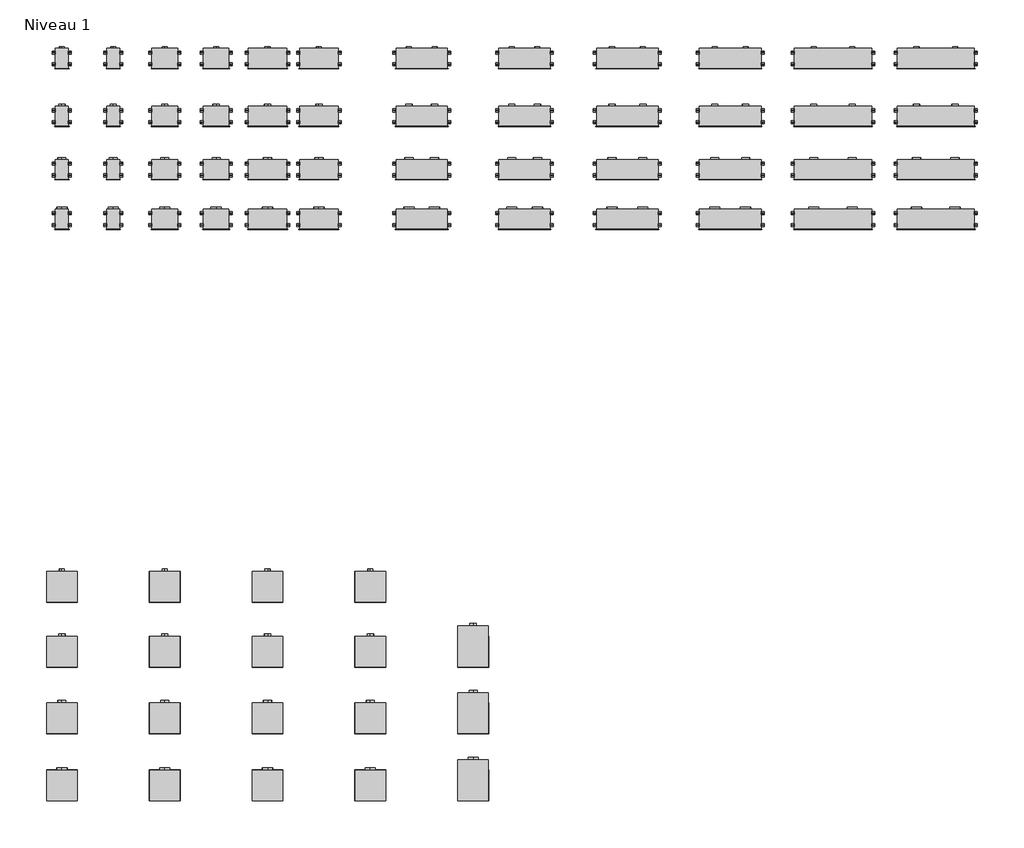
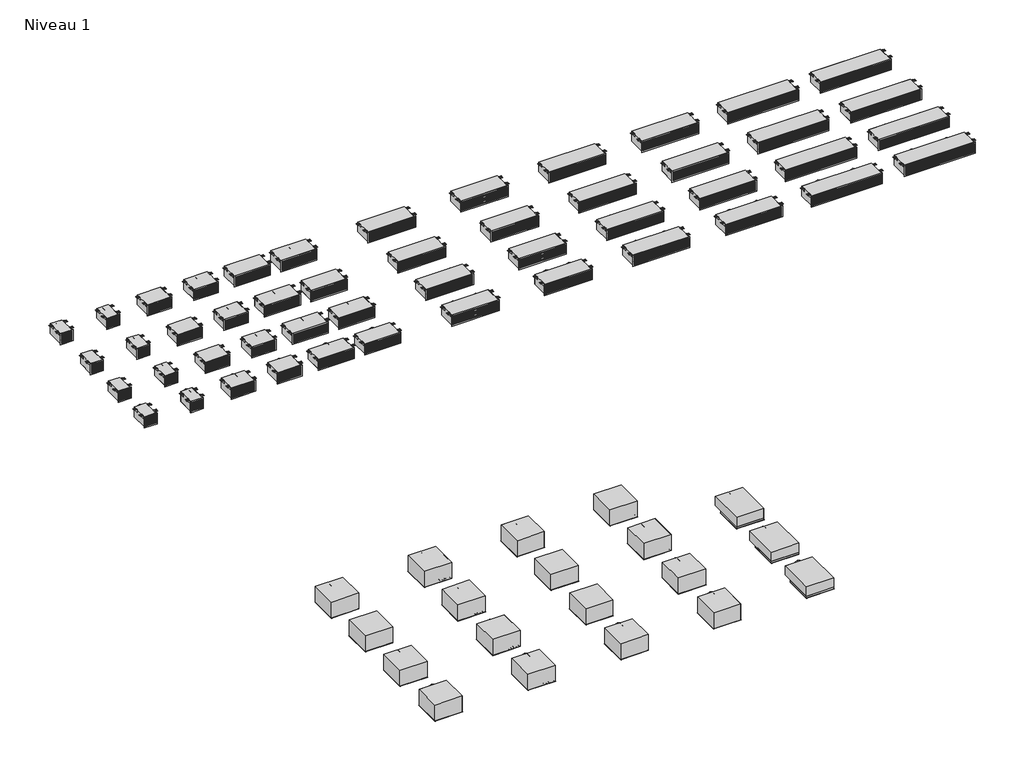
# One storey: 67 air terminals.
"""IFC4 building model written with IfcOpenShell, lengths in millimetres."""

from ifc_helpers import new_model, si_unit, origin, place, context, project, spatial, transform, mapped, element, save
from components import air_terminal_9427a1d9, air_terminal_dd134d97, air_terminal_380ac813, air_terminal_3425a1ed, air_terminal_93b68f62, air_terminal_c7b727d0, air_terminal_dbaeedca, air_terminal_643d013f, air_terminal_94710e21, air_terminal_dda5334e, air_terminal_16d54a23, air_terminal_fb6a926f, air_terminal_18f7a0d8, air_terminal_11f47abf, air_terminal_b541fa91, air_terminal_8d1e7f6b, air_terminal_0466a51b, air_terminal_1fbeafa4, air_terminal_f122593c, air_terminal_0894231d, air_terminal_c77c7e95, air_terminal_6e9eb5b7, air_terminal_af872f7b, air_terminal_8023394d, air_terminal_68dc9de8, air_terminal_87964066, air_terminal_674bfb5c, air_terminal_0c244e15, air_terminal_bc984ca1, air_terminal_e5bce460, air_terminal_6cdbe9a3, air_terminal_32119658, air_terminal_ec4d0d53, eol_mural_f0c05b58, eol_mural_10c953f2, eol_mural_340b9d11, eol_mural_228bd709, eol_mural_c0a6acfa, eol_mural_8f167833, eol_mural_bbadc28e, eol_mural_03f5ad25, eol_mural_11de79c1, eol_mural_cd177fe5, eol_mural_28d9379e, eol_mural_e3222fe8

model = new_model("IFC4")

# Units and contexts
model_context = context("Model", 3, world=origin())
ifc_project = project(units=[si_unit("LENGTHUNIT", "METRE", prefix="MILLI")], contexts=[model_context])

# Site, building, storey
site = spatial("IfcSite", under=ifc_project)
building = spatial("IfcBuilding", under=site)
storey = spatial("IfcBuildingStorey", under=building, Name="Niveau 1", Elevation=0.0)

# Air terminals
placement = place(None, origin())
air_terminal_shape = air_terminal_9427a1d9(model_context)
element("IfcAirTerminal", 1, ObjectType="EOL - Mural - 2 piquages : EOL-M2x100-1000x225-2", at=placement, inside=storey, context=model_context, shape_type="MappedRepresentation", body=[
    mapped(air_terminal_shape, transform((-2964.4977515, 376.9657034, 0.0), x_axis=(1.0, 0.0, 0.0), y_axis=(0.0, 1.0, 0.0), z_axis=(0.0, 0.0, 1.0))),
])
air_terminal_2_shape = air_terminal_dd134d97(model_context)
element("IfcAirTerminal", 2, ObjectType="EOL - Mural - 2 piquages : EOL-M2x125-1000x225-2", at=placement, inside=storey, context=model_context, shape_type="MappedRepresentation", body=[
    mapped(air_terminal_2_shape, transform((-2964.4977515, -749.3540889, 0.0), x_axis=(1.0, 0.0, 0.0), y_axis=(0.0, 1.0, 0.0), z_axis=(0.0, 0.0, 1.0))),
])
air_terminal_3_shape = air_terminal_380ac813(model_context)
element("IfcAirTerminal", 3, ObjectType="EOL - Mural - 2 piquages : EOL-M2x160-1000x225-2", at=placement, inside=storey, context=model_context, shape_type="MappedRepresentation", body=[
    mapped(air_terminal_3_shape, transform((-2964.4977515, -1784.5078015, 0.0), x_axis=(1.0, 0.0, 0.0), y_axis=(0.0, 1.0, 0.0), z_axis=(0.0, 0.0, 1.0))),
])
air_terminal_4_shape = air_terminal_3425a1ed(model_context)
element("IfcAirTerminal", 4, ObjectType="EOL - Mural - 2 piquages : EOL-M2x200-1000x225-2", at=placement, inside=storey, context=model_context, shape_type="MappedRepresentation", body=[
    mapped(air_terminal_4_shape, transform((-2964.4977515, -2751.871795, 0.0), x_axis=(1.0, 0.0, 0.0), y_axis=(0.0, 1.0, 0.0), z_axis=(0.0, 0.0, 1.0))),
])
air_terminal_5_shape = air_terminal_93b68f62(model_context)
element("IfcAirTerminal", 5, ObjectType="EOL - Mural - 2 piquages : EOL-M2x100-1200x225-2", at=placement, inside=storey, context=model_context, shape_type="MappedRepresentation", body=[
    mapped(air_terminal_5_shape, transform((1035.5022485, 376.9657034, 0.0), x_axis=(1.0, 0.0, 0.0), y_axis=(0.0, 1.0, 0.0), z_axis=(0.0, 0.0, 1.0))),
])
air_terminal_6_shape = air_terminal_c7b727d0(model_context)
element("IfcAirTerminal", 6, ObjectType="EOL - Mural - 2 piquages : EOL-M2x125-1200x225-2", at=placement, inside=storey, context=model_context, shape_type="MappedRepresentation", body=[
    mapped(air_terminal_6_shape, transform((1035.5022485, -749.3540889, 0.0), x_axis=(1.0, 0.0, 0.0), y_axis=(0.0, 1.0, 0.0), z_axis=(0.0, 0.0, 1.0))),
])
air_terminal_7_shape = air_terminal_dbaeedca(model_context)
element("IfcAirTerminal", 7, ObjectType="EOL - Mural - 2 piquages : EOL-M2x160-1200x225-2", at=placement, inside=storey, context=model_context, shape_type="MappedRepresentation", body=[
    mapped(air_terminal_7_shape, transform((1035.5022485, -1784.5078015, 0.0), x_axis=(1.0, 0.0, 0.0), y_axis=(0.0, 1.0, 0.0), z_axis=(0.0, 0.0, 1.0))),
])
air_terminal_8_shape = air_terminal_643d013f(model_context)
element("IfcAirTerminal", 8, ObjectType="EOL - Mural - 2 piquages : EOL-M2x200-1200x225-2", at=placement, inside=storey, context=model_context, shape_type="MappedRepresentation", body=[
    mapped(air_terminal_8_shape, transform((1035.5022485, -2751.871795, 0.0), x_axis=(1.0, 0.0, 0.0), y_axis=(0.0, 1.0, 0.0), z_axis=(0.0, 0.0, 1.0))),
])
air_terminal_9_shape = air_terminal_94710e21(model_context)
element("IfcAirTerminal", 9, ObjectType="EOL - Mural - 2 piquages : EOL-M2x100-1500x225-2", at=placement, inside=storey, context=model_context, shape_type="MappedRepresentation", body=[
    mapped(air_terminal_9_shape, transform((5035.5022485, 376.9657034, 0.0), x_axis=(1.0, 0.0, 0.0), y_axis=(0.0, 1.0, 0.0), z_axis=(0.0, 0.0, 1.0))),
])
air_terminal_10_shape = air_terminal_dda5334e(model_context)
element("IfcAirTerminal", 10, ObjectType="EOL - Mural - 2 piquages : EOL-M2x125-1500x225-2", at=placement, inside=storey, context=model_context, shape_type="MappedRepresentation", body=[
    mapped(air_terminal_10_shape, transform((5035.5022485, -749.3540889, 0.0), x_axis=(1.0, 0.0, 0.0), y_axis=(0.0, 1.0, 0.0), z_axis=(0.0, 0.0, 1.0))),
])
air_terminal_11_shape = air_terminal_16d54a23(model_context)
element("IfcAirTerminal", 11, ObjectType="EOL - Mural - 2 piquages : EOL-M2x160-1500x225-2", at=placement, inside=storey, context=model_context, shape_type="MappedRepresentation", body=[
    mapped(air_terminal_11_shape, transform((5035.5022485, -1784.5078015, 0.0), x_axis=(1.0, 0.0, 0.0), y_axis=(0.0, 1.0, 0.0), z_axis=(0.0, 0.0, 1.0))),
])
air_terminal_12_shape = air_terminal_fb6a926f(model_context)
element("IfcAirTerminal", 12, ObjectType="EOL - Mural - 2 piquages : EOL-M2x200-1500x225-2", at=placement, inside=storey, context=model_context, shape_type="MappedRepresentation", body=[
    mapped(air_terminal_12_shape, transform((5035.5022485, -2751.871795, 0.0), x_axis=(1.0, 0.0, 0.0), y_axis=(0.0, 1.0, 0.0), z_axis=(0.0, 0.0, 1.0))),
])
element("IfcAirTerminal", 13, ObjectType="EOL - Mural - 2 piquages : EOL-M2x100-1000x225-3", at=placement, inside=storey, context=model_context, shape_type="MappedRepresentation", body=[
    mapped(air_terminal_shape, transform((-964.4977515, 376.9657034, 0.0), x_axis=(1.0, 0.0, 0.0), y_axis=(0.0, 1.0, 0.0), z_axis=(0.0, 0.0, 1.0))),
])
element("IfcAirTerminal", 14, ObjectType="EOL - Mural - 2 piquages : EOL-M2x100-1200x225-3", at=placement, inside=storey, context=model_context, shape_type="MappedRepresentation", body=[
    mapped(air_terminal_5_shape, transform((3035.5022485, 376.9657034, 0.0), x_axis=(1.0, 0.0, 0.0), y_axis=(0.0, 1.0, 0.0), z_axis=(0.0, 0.0, 1.0))),
])
element("IfcAirTerminal", 15, ObjectType="EOL - Mural - 2 piquages : EOL-M2x100-1500x225-3", at=placement, inside=storey, context=model_context, shape_type="MappedRepresentation", body=[
    mapped(air_terminal_9_shape, transform((7035.5022485, 376.9657034, 0.0), x_axis=(1.0, 0.0, 0.0), y_axis=(0.0, 1.0, 0.0), z_axis=(0.0, 0.0, 1.0))),
])
element("IfcAirTerminal", 16, ObjectType="EOL - Mural - 2 piquages : EOL-M2x125-1000x225-3", at=placement, inside=storey, context=model_context, shape_type="MappedRepresentation", body=[
    mapped(air_terminal_2_shape, transform((-964.4977515, -749.3540889, 0.0), x_axis=(1.0, 0.0, 0.0), y_axis=(0.0, 1.0, 0.0), z_axis=(0.0, 0.0, 1.0))),
])
element("IfcAirTerminal", 17, ObjectType="EOL - Mural - 2 piquages : EOL-M2x125-1200x225-3", at=placement, inside=storey, context=model_context, shape_type="MappedRepresentation", body=[
    mapped(air_terminal_6_shape, transform((3035.5022485, -749.3540889, 0.0), x_axis=(1.0, 0.0, 0.0), y_axis=(0.0, 1.0, 0.0), z_axis=(0.0, 0.0, 1.0))),
])
element("IfcAirTerminal", 18, ObjectType="EOL - Mural - 2 piquages : EOL-M2x125-1500x225-3", at=placement, inside=storey, context=model_context, shape_type="MappedRepresentation", body=[
    mapped(air_terminal_10_shape, transform((7035.5022485, -749.3540889, 0.0), x_axis=(1.0, 0.0, 0.0), y_axis=(0.0, 1.0, 0.0), z_axis=(0.0, 0.0, 1.0))),
])
element("IfcAirTerminal", 19, ObjectType="EOL - Mural - 2 piquages : EOL-M2x160-1000x225-3", at=placement, inside=storey, context=model_context, shape_type="MappedRepresentation", body=[
    mapped(air_terminal_3_shape, transform((-964.4977515, -1784.5078015, 0.0), x_axis=(1.0, 0.0, 0.0), y_axis=(0.0, 1.0, 0.0), z_axis=(0.0, 0.0, 1.0))),
])
element("IfcAirTerminal", 20, ObjectType="EOL - Mural - 2 piquages : EOL-M2x160-1200x225-3", at=placement, inside=storey, context=model_context, shape_type="MappedRepresentation", body=[
    mapped(air_terminal_7_shape, transform((3035.5022485, -1784.5078015, 0.0), x_axis=(1.0, 0.0, 0.0), y_axis=(0.0, 1.0, 0.0), z_axis=(0.0, 0.0, 1.0))),
])
element("IfcAirTerminal", 21, ObjectType="EOL - Mural - 2 piquages : EOL-M2x160-1500x225-3", at=placement, inside=storey, context=model_context, shape_type="MappedRepresentation", body=[
    mapped(air_terminal_11_shape, transform((7035.5022485, -1784.5078015, 0.0), x_axis=(1.0, 0.0, 0.0), y_axis=(0.0, 1.0, 0.0), z_axis=(0.0, 0.0, 1.0))),
])
element("IfcAirTerminal", 22, ObjectType="EOL - Mural - 2 piquages : EOL-M2x200-1000x225-3", at=placement, inside=storey, context=model_context, shape_type="MappedRepresentation", body=[
    mapped(air_terminal_4_shape, transform((-964.4977515, -2751.871795, 0.0), x_axis=(1.0, 0.0, 0.0), y_axis=(0.0, 1.0, 0.0), z_axis=(0.0, 0.0, 1.0))),
])
element("IfcAirTerminal", 23, ObjectType="EOL - Mural - 2 piquages : EOL-M2x200-1200x225-3", at=placement, inside=storey, context=model_context, shape_type="MappedRepresentation", body=[
    mapped(air_terminal_8_shape, transform((3035.5022485, -2751.871795, 0.0), x_axis=(1.0, 0.0, 0.0), y_axis=(0.0, 1.0, 0.0), z_axis=(0.0, 0.0, 1.0))),
])
element("IfcAirTerminal", 24, ObjectType="EOL - Mural - 2 piquages : EOL-M2x200-1500x225-3", at=placement, inside=storey, context=model_context, shape_type="MappedRepresentation", body=[
    mapped(air_terminal_12_shape, transform((7035.5022485, -2751.871795, 0.0), x_axis=(1.0, 0.0, 0.0), y_axis=(0.0, 1.0, 0.0), z_axis=(0.0, 0.0, 1.0))),
])
air_terminal_13_shape = air_terminal_18f7a0d8(model_context)
element("IfcAirTerminal", 25, ObjectType="EOL - plafonnier : EOL-P2-100-600x600", at=placement, inside=storey, context=model_context, shape_type="MappedRepresentation", body=[
    mapped(air_terminal_13_shape, transform((-7964.4977515, -10004.4867421, 0.0), x_axis=(1.0, 0.0, 0.0), y_axis=(0.0, 1.0, 0.0), z_axis=(0.0, 0.0, 1.0))),
])
air_terminal_14_shape = air_terminal_11f47abf(model_context)
element("IfcAirTerminal", 26, ObjectType="EOL - plafonnier : EOL-P2-125-600x600", at=placement, inside=storey, context=model_context, shape_type="MappedRepresentation", body=[
    mapped(air_terminal_14_shape, transform((-7964.4977515, -11266.0064615, 0.0), x_axis=(1.0, 0.0, 0.0), y_axis=(0.0, 1.0, 0.0), z_axis=(0.0, 0.0, 1.0))),
])
air_terminal_15_shape = air_terminal_b541fa91(model_context)
element("IfcAirTerminal", 27, ObjectType="EOL - plafonnier : EOL-P2-160-600x600", at=placement, inside=storey, context=model_context, shape_type="MappedRepresentation", body=[
    mapped(air_terminal_15_shape, transform((-7964.4977515, -12563.0462174, 0.0), x_axis=(1.0, 0.0, 0.0), y_axis=(0.0, 1.0, 0.0), z_axis=(0.0, 0.0, 1.0))),
])
air_terminal_16_shape = air_terminal_8d1e7f6b(model_context)
element("IfcAirTerminal", 28, ObjectType="EOL - plafonnier : EOL-P2-200-600x600", at=placement, inside=storey, context=model_context, shape_type="MappedRepresentation", body=[
    mapped(air_terminal_16_shape, transform((-7964.4977515, -13872.2565118, 0.0), x_axis=(1.0, 0.0, 0.0), y_axis=(0.0, 1.0, 0.0), z_axis=(0.0, 0.0, 1.0))),
])
air_terminal_17_shape = air_terminal_0466a51b(model_context)
air_terminal_18_shape = air_terminal_1fbeafa4(model_context)
element("IfcAirTerminal", 29, ObjectType="EOL - plafonnier : EOL-P3-100-600x600", at=placement, inside=storey, context=model_context, shape_type="MappedRepresentation", body=[
    mapped(air_terminal_17_shape, transform((-5964.4977515, -10004.4867421, 0.0), x_axis=(1.0, 0.0, 0.0), y_axis=(0.0, 1.0, 0.0), z_axis=(0.0, 0.0, 1.0))),
    mapped(air_terminal_18_shape, transform((-5964.4977515, -10004.4867421, 0.0), x_axis=(1.0, 0.0, 0.0), y_axis=(0.0, 1.0, 0.0), z_axis=(0.0, 0.0, 1.0))),
])
air_terminal_19_shape = air_terminal_f122593c(model_context)
element("IfcAirTerminal", 30, ObjectType="EOL - plafonnier : EOL-P3-125-600x600", at=placement, inside=storey, context=model_context, shape_type="MappedRepresentation", body=[
    mapped(air_terminal_17_shape, transform((-5964.4977515, -11266.0064615, 0.0), x_axis=(1.0, 0.0, 0.0), y_axis=(0.0, 1.0, 0.0), z_axis=(0.0, 0.0, 1.0))),
    mapped(air_terminal_19_shape, transform((-5964.4977515, -11266.0064615, 0.0), x_axis=(1.0, 0.0, 0.0), y_axis=(0.0, 1.0, 0.0), z_axis=(0.0, 0.0, 1.0))),
])
air_terminal_20_shape = air_terminal_0894231d(model_context)
element("IfcAirTerminal", 31, ObjectType="EOL - plafonnier : EOL-P3-160-600x600", at=placement, inside=storey, context=model_context, shape_type="MappedRepresentation", body=[
    mapped(air_terminal_17_shape, transform((-5964.4977515, -12563.0462174, 0.0), x_axis=(1.0, 0.0, 0.0), y_axis=(0.0, 1.0, 0.0), z_axis=(0.0, 0.0, 1.0))),
    mapped(air_terminal_20_shape, transform((-5964.4977515, -12563.0462174, 0.0), x_axis=(1.0, 0.0, 0.0), y_axis=(0.0, 1.0, 0.0), z_axis=(0.0, 0.0, 1.0))),
])
air_terminal_21_shape = air_terminal_c77c7e95(model_context)
element("IfcAirTerminal", 32, ObjectType="EOL - plafonnier : EOL-P3-200-600x600", at=placement, inside=storey, context=model_context, shape_type="MappedRepresentation", body=[
    mapped(air_terminal_17_shape, transform((-5964.4977515, -13872.2565118, 0.0), x_axis=(1.0, 0.0, 0.0), y_axis=(0.0, 1.0, 0.0), z_axis=(0.0, 0.0, 1.0))),
    mapped(air_terminal_21_shape, transform((-5964.4977515, -13872.2565118, 0.0), x_axis=(1.0, 0.0, 0.0), y_axis=(0.0, 1.0, 0.0), z_axis=(0.0, 0.0, 1.0))),
])
air_terminal_22_shape = air_terminal_6e9eb5b7(model_context)
air_terminal_23_shape = air_terminal_af872f7b(model_context)
element("IfcAirTerminal", 33, ObjectType="EOL - plafonnier : EOL-P4-100-600x600", at=placement, inside=storey, context=model_context, shape_type="MappedRepresentation", body=[
    mapped(air_terminal_22_shape, transform((-3964.4977515, -10004.4867421, 0.0), x_axis=(1.0, 0.0, 0.0), y_axis=(0.0, 1.0, 0.0), z_axis=(0.0, 0.0, 1.0))),
    mapped(air_terminal_23_shape, transform((-3964.4977515, -10004.4867421, 0.0), x_axis=(1.0, 0.0, 0.0), y_axis=(0.0, 1.0, 0.0), z_axis=(0.0, 0.0, 1.0))),
])
air_terminal_24_shape = air_terminal_8023394d(model_context)
element("IfcAirTerminal", 34, ObjectType="EOL - plafonnier : EOL-P4-125-600x600", at=placement, inside=storey, context=model_context, shape_type="MappedRepresentation", body=[
    mapped(air_terminal_22_shape, transform((-3964.4977515, -11266.0064615, 0.0), x_axis=(1.0, 0.0, 0.0), y_axis=(0.0, 1.0, 0.0), z_axis=(0.0, 0.0, 1.0))),
    mapped(air_terminal_24_shape, transform((-3964.4977515, -11266.0064615, 0.0), x_axis=(1.0, 0.0, 0.0), y_axis=(0.0, 1.0, 0.0), z_axis=(0.0, 0.0, 1.0))),
])
air_terminal_25_shape = air_terminal_68dc9de8(model_context)
element("IfcAirTerminal", 35, ObjectType="EOL - plafonnier : EOL-P4-160-600x600", at=placement, inside=storey, context=model_context, shape_type="MappedRepresentation", body=[
    mapped(air_terminal_22_shape, transform((-3964.4977515, -12563.0462174, 0.0), x_axis=(1.0, 0.0, 0.0), y_axis=(0.0, 1.0, 0.0), z_axis=(0.0, 0.0, 1.0))),
    mapped(air_terminal_25_shape, transform((-3964.4977515, -12563.0462174, 0.0), x_axis=(1.0, 0.0, 0.0), y_axis=(0.0, 1.0, 0.0), z_axis=(0.0, 0.0, 1.0))),
])
air_terminal_26_shape = air_terminal_87964066(model_context)
element("IfcAirTerminal", 36, ObjectType="EOL - plafonnier : EOL-P4-200-600x600", at=placement, inside=storey, context=model_context, shape_type="MappedRepresentation", body=[
    mapped(air_terminal_22_shape, transform((-3964.4977515, -13872.2565118, 0.0), x_axis=(1.0, 0.0, 0.0), y_axis=(0.0, 1.0, 0.0), z_axis=(0.0, 0.0, 1.0))),
    mapped(air_terminal_26_shape, transform((-3964.4977515, -13872.2565118, 0.0), x_axis=(1.0, 0.0, 0.0), y_axis=(0.0, 1.0, 0.0), z_axis=(0.0, 0.0, 1.0))),
])
air_terminal_27_shape = air_terminal_674bfb5c(model_context)
element("IfcAirTerminal", 37, ObjectType="EOL - plafonnier : EOL-P1-100-600x600", at=placement, inside=storey, context=model_context, shape_type="MappedRepresentation", body=[
    mapped(air_terminal_27_shape, transform((-9964.4977515, -10004.4867421, 0.0), x_axis=(1.0, 0.0, 0.0), y_axis=(0.0, 1.0, 0.0), z_axis=(0.0, 0.0, 1.0))),
])
air_terminal_28_shape = air_terminal_0c244e15(model_context)
element("IfcAirTerminal", 38, ObjectType="EOL - plafonnier : EOL-P1-125-600x600", at=placement, inside=storey, context=model_context, shape_type="MappedRepresentation", body=[
    mapped(air_terminal_28_shape, transform((-9964.4977515, -11266.0064615, 0.0), x_axis=(1.0, 0.0, 0.0), y_axis=(0.0, 1.0, 0.0), z_axis=(0.0, 0.0, 1.0))),
])
air_terminal_29_shape = air_terminal_bc984ca1(model_context)
element("IfcAirTerminal", 39, ObjectType="EOL - plafonnier : EOL-P1-160-600x600", at=placement, inside=storey, context=model_context, shape_type="MappedRepresentation", body=[
    mapped(air_terminal_29_shape, transform((-9964.4977515, -12563.0462174, 0.0), x_axis=(1.0, 0.0, 0.0), y_axis=(0.0, 1.0, 0.0), z_axis=(0.0, 0.0, 1.0))),
])
air_terminal_30_shape = air_terminal_e5bce460(model_context)
element("IfcAirTerminal", 40, ObjectType="EOL - plafonnier : EOL-P1-200-600x600", at=placement, inside=storey, context=model_context, shape_type="MappedRepresentation", body=[
    mapped(air_terminal_30_shape, transform((-9964.4977515, -13872.2565118, 0.0), x_axis=(1.0, 0.0, 0.0), y_axis=(0.0, 1.0, 0.0), z_axis=(0.0, 0.0, 1.0))),
])
air_terminal_31_shape = air_terminal_6cdbe9a3(model_context)
element("IfcAirTerminal", 41, ObjectType="EOL - plafonnier - SHORT : EOL-P4-125-600x600-SHORT", at=placement, inside=storey, context=model_context, shape_type="MappedRepresentation", body=[
    mapped(air_terminal_22_shape, transform((-1964.4977515, -11266.0064615, 0.0), x_axis=(1.0, 0.0, 0.0), y_axis=(0.0, 1.0, 0.0), z_axis=(0.0, 0.0, 1.0))),
    mapped(air_terminal_31_shape, transform((-1964.4977515, -11266.0064615, 0.0), x_axis=(1.0, 0.0, 0.0), y_axis=(0.0, 1.0, 0.0), z_axis=(0.0, 0.0, 1.0))),
])
air_terminal_32_shape = air_terminal_32119658(model_context)
element("IfcAirTerminal", 42, ObjectType="EOL - plafonnier - SHORT : EOL-P4-160-600x600-SHORT", at=placement, inside=storey, context=model_context, shape_type="MappedRepresentation", body=[
    mapped(air_terminal_22_shape, transform((-1964.4977515, -12563.0462174, 0.0), x_axis=(1.0, 0.0, 0.0), y_axis=(0.0, 1.0, 0.0), z_axis=(0.0, 0.0, 1.0))),
    mapped(air_terminal_32_shape, transform((-1964.4977515, -12563.0462174, 0.0), x_axis=(1.0, 0.0, 0.0), y_axis=(0.0, 1.0, 0.0), z_axis=(0.0, 0.0, 1.0))),
])
air_terminal_33_shape = air_terminal_ec4d0d53(model_context)
element("IfcAirTerminal", 43, ObjectType="EOL - plafonnier - SHORT : EOL-P4-200-600x600-SHORT", at=placement, inside=storey, context=model_context, shape_type="MappedRepresentation", body=[
    mapped(air_terminal_22_shape, transform((-1964.4977515, -13872.2565118, 0.0), x_axis=(1.0, 0.0, 0.0), y_axis=(0.0, 1.0, 0.0), z_axis=(0.0, 0.0, 1.0))),
    mapped(air_terminal_33_shape, transform((-1964.4977515, -13872.2565118, 0.0), x_axis=(1.0, 0.0, 0.0), y_axis=(0.0, 1.0, 0.0), z_axis=(0.0, 0.0, 1.0))),
])
eol_mural_shape = eol_mural_f0c05b58(model_context)
element("IfcAirTerminal", 44, ObjectType="EOL - Mural : EOL-M100-250x225-2", at=placement, inside=storey, context=model_context, shape_type="MappedRepresentation", body=[
    mapped(eol_mural_shape, transform((-9964.4977515, 376.9657034, 0.0), x_axis=(1.0, 0.0, 0.0), y_axis=(0.0, 1.0, 0.0), z_axis=(0.0, 0.0, 1.0))),
])
eol_mural_2_shape = eol_mural_10c953f2(model_context)
element("IfcAirTerminal", 45, ObjectType="EOL - Mural : EOL-M125-250x225-2", at=placement, inside=storey, context=model_context, shape_type="MappedRepresentation", body=[
    mapped(eol_mural_2_shape, transform((-9964.4977515, -749.3540889, 0.0), x_axis=(1.0, 0.0, 0.0), y_axis=(0.0, 1.0, 0.0), z_axis=(0.0, 0.0, 1.0))),
])
eol_mural_3_shape = eol_mural_340b9d11(model_context)
element("IfcAirTerminal", 46, ObjectType="EOL - Mural : EOL-M160-250x225-2", at=placement, inside=storey, context=model_context, shape_type="MappedRepresentation", body=[
    mapped(eol_mural_3_shape, transform((-9964.4977515, -1784.5078015, 0.0), x_axis=(1.0, 0.0, 0.0), y_axis=(0.0, 1.0, 0.0), z_axis=(0.0, 0.0, 1.0))),
])
eol_mural_4_shape = eol_mural_228bd709(model_context)
element("IfcAirTerminal", 47, ObjectType="EOL - Mural : EOL-M200-250x225-2", at=placement, inside=storey, context=model_context, shape_type="MappedRepresentation", body=[
    mapped(eol_mural_4_shape, transform((-9964.4977515, -2751.871795, 0.0), x_axis=(1.0, 0.0, 0.0), y_axis=(0.0, 1.0, 0.0), z_axis=(0.0, 0.0, 1.0))),
])
eol_mural_5_shape = eol_mural_c0a6acfa(model_context)
element("IfcAirTerminal", 48, ObjectType="EOL - Mural : EOL-M100-500x225-2", at=placement, inside=storey, context=model_context, shape_type="MappedRepresentation", body=[
    mapped(eol_mural_5_shape, transform((-7964.4977515, 376.9657034, 0.0), x_axis=(1.0, 0.0, 0.0), y_axis=(0.0, 1.0, 0.0), z_axis=(0.0, 0.0, 1.0))),
])
eol_mural_6_shape = eol_mural_8f167833(model_context)
element("IfcAirTerminal", 49, ObjectType="EOL - Mural : EOL-M125-500x225-2", at=placement, inside=storey, context=model_context, shape_type="MappedRepresentation", body=[
    mapped(eol_mural_6_shape, transform((-7964.4977515, -749.3540889, 0.0), x_axis=(1.0, 0.0, 0.0), y_axis=(0.0, 1.0, 0.0), z_axis=(0.0, 0.0, 1.0))),
])
eol_mural_7_shape = eol_mural_bbadc28e(model_context)
element("IfcAirTerminal", 50, ObjectType="EOL - Mural : EOL-M160-500x225-2", at=placement, inside=storey, context=model_context, shape_type="MappedRepresentation", body=[
    mapped(eol_mural_7_shape, transform((-7964.4977515, -1784.5078015, 0.0), x_axis=(1.0, 0.0, 0.0), y_axis=(0.0, 1.0, 0.0), z_axis=(0.0, 0.0, 1.0))),
])
eol_mural_8_shape = eol_mural_03f5ad25(model_context)
element("IfcAirTerminal", 51, ObjectType="EOL - Mural : EOL-M200-500x225-2", at=placement, inside=storey, context=model_context, shape_type="MappedRepresentation", body=[
    mapped(eol_mural_8_shape, transform((-7964.4977515, -2751.871795, 0.0), x_axis=(1.0, 0.0, 0.0), y_axis=(0.0, 1.0, 0.0), z_axis=(0.0, 0.0, 1.0))),
])
eol_mural_9_shape = eol_mural_11de79c1(model_context)
element("IfcAirTerminal", 52, ObjectType="EOL - Mural : EOL-M100-750x225-2", at=placement, inside=storey, context=model_context, shape_type="MappedRepresentation", body=[
    mapped(eol_mural_9_shape, transform((-5964.4977515, 376.9657034, 0.0), x_axis=(1.0, 0.0, 0.0), y_axis=(0.0, 1.0, 0.0), z_axis=(0.0, 0.0, 1.0))),
])
eol_mural_10_shape = eol_mural_cd177fe5(model_context)
element("IfcAirTerminal", 53, ObjectType="EOL - Mural : EOL-M125-750x225-2", at=placement, inside=storey, context=model_context, shape_type="MappedRepresentation", body=[
    mapped(eol_mural_10_shape, transform((-5964.4977515, -749.3540889, 0.0), x_axis=(1.0, 0.0, 0.0), y_axis=(0.0, 1.0, 0.0), z_axis=(0.0, 0.0, 1.0))),
])
eol_mural_11_shape = eol_mural_28d9379e(model_context)
element("IfcAirTerminal", 54, ObjectType="EOL - Mural : EOL-M160-750x225-2", at=placement, inside=storey, context=model_context, shape_type="MappedRepresentation", body=[
    mapped(eol_mural_11_shape, transform((-5964.4977515, -1784.5078015, 0.0), x_axis=(1.0, 0.0, 0.0), y_axis=(0.0, 1.0, 0.0), z_axis=(0.0, 0.0, 1.0))),
])
eol_mural_12_shape = eol_mural_e3222fe8(model_context)
element("IfcAirTerminal", 55, ObjectType="EOL - Mural : EOL-M200-750x225-2", at=placement, inside=storey, context=model_context, shape_type="MappedRepresentation", body=[
    mapped(eol_mural_12_shape, transform((-5964.4977515, -2751.871795, 0.0), x_axis=(1.0, 0.0, 0.0), y_axis=(0.0, 1.0, 0.0), z_axis=(0.0, 0.0, 1.0))),
])
element("IfcAirTerminal", 56, ObjectType="EOL - Mural : EOL-M100-250x225-3", at=placement, inside=storey, context=model_context, shape_type="MappedRepresentation", body=[
    mapped(eol_mural_shape, transform((-8964.4977515, 376.9657034, 0.0), x_axis=(1.0, 0.0, 0.0), y_axis=(0.0, 1.0, 0.0), z_axis=(0.0, 0.0, 1.0))),
])
element("IfcAirTerminal", 57, ObjectType="EOL - Mural : EOL-M125-250x225-3", at=placement, inside=storey, context=model_context, shape_type="MappedRepresentation", body=[
    mapped(eol_mural_2_shape, transform((-8964.4977515, -749.3540889, 0.0), x_axis=(1.0, 0.0, 0.0), y_axis=(0.0, 1.0, 0.0), z_axis=(0.0, 0.0, 1.0))),
])
element("IfcAirTerminal", 58, ObjectType="EOL - Mural : EOL-M160-250x225-3", at=placement, inside=storey, context=model_context, shape_type="MappedRepresentation", body=[
    mapped(eol_mural_3_shape, transform((-8964.4977515, -1784.5078015, 0.0), x_axis=(1.0, 0.0, 0.0), y_axis=(0.0, 1.0, 0.0), z_axis=(0.0, 0.0, 1.0))),
])
element("IfcAirTerminal", 59, ObjectType="EOL - Mural : EOL-M200-250x225-3", at=placement, inside=storey, context=model_context, shape_type="MappedRepresentation", body=[
    mapped(eol_mural_4_shape, transform((-8964.4977515, -2751.871795, 0.0), x_axis=(1.0, 0.0, 0.0), y_axis=(0.0, 1.0, 0.0), z_axis=(0.0, 0.0, 1.0))),
])
element("IfcAirTerminal", 60, ObjectType="EOL - Mural : EOL-M100-500x225-3", at=placement, inside=storey, context=model_context, shape_type="MappedRepresentation", body=[
    mapped(eol_mural_5_shape, transform((-6964.4977515, 376.9657034, 0.0), x_axis=(1.0, 0.0, 0.0), y_axis=(0.0, 1.0, 0.0), z_axis=(0.0, 0.0, 1.0))),
])
element("IfcAirTerminal", 61, ObjectType="EOL - Mural : EOL-M125-500x225-3", at=placement, inside=storey, context=model_context, shape_type="MappedRepresentation", body=[
    mapped(eol_mural_6_shape, transform((-6964.4977515, -749.3540889, 0.0), x_axis=(1.0, 0.0, 0.0), y_axis=(0.0, 1.0, 0.0), z_axis=(0.0, 0.0, 1.0))),
])
element("IfcAirTerminal", 62, ObjectType="EOL - Mural : EOL-M160-500x225-3", at=placement, inside=storey, context=model_context, shape_type="MappedRepresentation", body=[
    mapped(eol_mural_7_shape, transform((-6964.4977515, -1784.5078015, 0.0), x_axis=(1.0, 0.0, 0.0), y_axis=(0.0, 1.0, 0.0), z_axis=(0.0, 0.0, 1.0))),
])
element("IfcAirTerminal", 63, ObjectType="EOL - Mural : EOL-M200-500x225-3", at=placement, inside=storey, context=model_context, shape_type="MappedRepresentation", body=[
    mapped(eol_mural_8_shape, transform((-6964.4977515, -2751.871795, 0.0), x_axis=(1.0, 0.0, 0.0), y_axis=(0.0, 1.0, 0.0), z_axis=(0.0, 0.0, 1.0))),
])
element("IfcAirTerminal", 64, ObjectType="EOL - Mural : EOL-M100-750x225-3", at=placement, inside=storey, context=model_context, shape_type="MappedRepresentation", body=[
    mapped(eol_mural_9_shape, transform((-4964.4977515, 376.9657034, 0.0), x_axis=(1.0, 0.0, 0.0), y_axis=(0.0, 1.0, 0.0), z_axis=(0.0, 0.0, 1.0))),
])
element("IfcAirTerminal", 65, ObjectType="EOL - Mural : EOL-M125-750x225-3", at=placement, inside=storey, context=model_context, shape_type="MappedRepresentation", body=[
    mapped(eol_mural_10_shape, transform((-4964.4977515, -749.3540889, 0.0), x_axis=(1.0, 0.0, 0.0), y_axis=(0.0, 1.0, 0.0), z_axis=(0.0, 0.0, 1.0))),
])
element("IfcAirTerminal", 66, ObjectType="EOL - Mural : EOL-M160-750x225-3", at=placement, inside=storey, context=model_context, shape_type="MappedRepresentation", body=[
    mapped(eol_mural_11_shape, transform((-4964.4977515, -1784.5078015, 0.0), x_axis=(1.0, 0.0, 0.0), y_axis=(0.0, 1.0, 0.0), z_axis=(0.0, 0.0, 1.0))),
])
element("IfcAirTerminal", 67, ObjectType="EOL - Mural : EOL-M200-750x225-3", at=placement, inside=storey, context=model_context, shape_type="MappedRepresentation", body=[
    mapped(eol_mural_12_shape, transform((-4964.4977515, -2751.871795, 0.0), x_axis=(1.0, 0.0, 0.0), y_axis=(0.0, 1.0, 0.0), z_axis=(0.0, 0.0, 1.0))),
])

save(model, "model.ifc")
